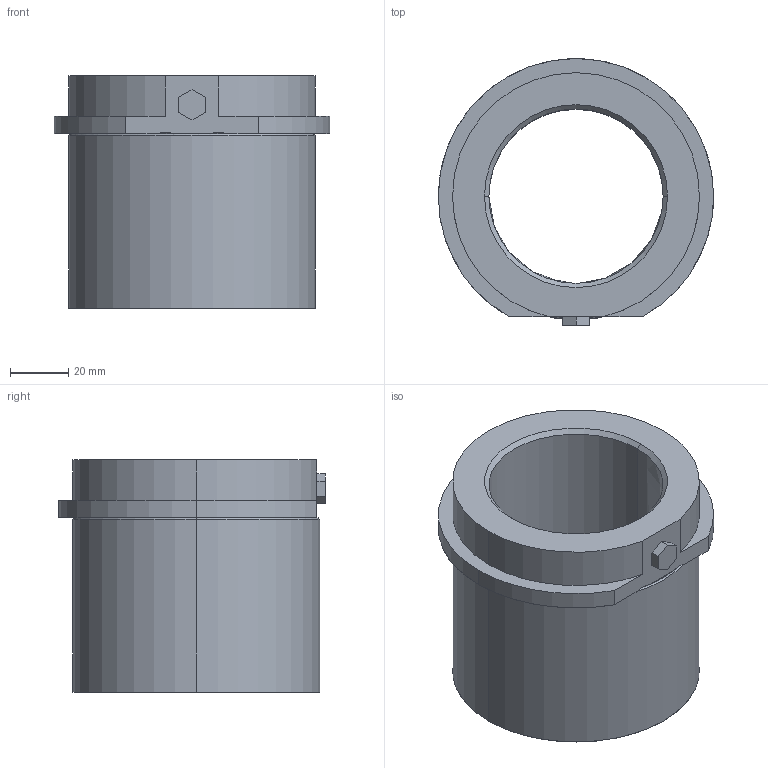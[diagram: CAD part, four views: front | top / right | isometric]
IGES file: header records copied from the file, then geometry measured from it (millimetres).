
Start section: START RECORD GO HERE.
Global section: file name: 740-60.igs; native system: DASSAULT SYSTEMES CATIA V5 R20 - www.3ds.com; preprocessor: CATIA Version 5 Release 20 ; author: Utente; organization: NB04-ASUS; date: 20210118.202953; units: millimetre
Bounding box: 94.8 x 91.9 x 80 mm (x, y, z)
Surface area: 45062 mm2 (no closed solid volume)
Topology: 0 solids, 0 shells, 35 faces, 176 edges, 176 vertices
Faces by surface type: revolution 21, plane 14
